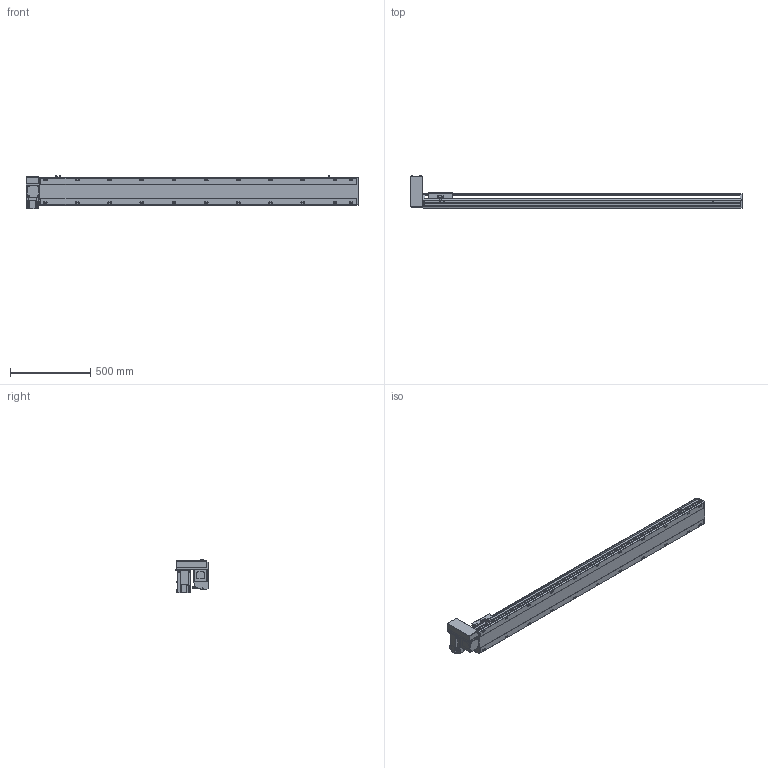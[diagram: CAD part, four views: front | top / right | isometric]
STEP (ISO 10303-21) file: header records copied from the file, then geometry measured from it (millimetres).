
FILE_DESCRIPTION(/* description */ ('STEP AP214'),/* implementation_level */ '2;1');
FILE_NAME(/* name */ 'PBS170-P40-S1700-RU-T75-C1-N(0)',/* time_stamp */ '2022-06-08T07:59:29+02:00',/* author */ ('License CC BY-ND 4.0'),/* organization */ ('CADENAS'),/* preprocessor_version */ 'ST-DEVELOPER v18.102',/* originating_system */ 'PARTsolutions',/* authorisation */ ' ');
FILE_SCHEMA (('AUTOMOTIVE_DESIGN {1 0 10303 214 3 1 1}'));
Length unit declared in the file: millimetre
Products named in the file (7): PBS170-P40-S1700-RU-T75-C1-N(0); PBS170_sensor; PBS170_plant; PBS170_sliser; T75-p1; PBS170T-RU_motors; PBS170-S1700()_body
Assembly tree (8 placements, depth 2):
  PBS170-P40-S1700-RU-T75-C1-N(0)
    PBS170_sensor  x3
    PBS170_plant
    PBS170_sliser
    T75-p1
    PBS170T-RU_motors
    PBS170-S1700()_body
Bounding box: 2063 x 206 x 205.3 mm (x, y, z)
Volume: 15977052.6 mm3; surface area: 2042360.4 mm2
Topology: 8 solids, 8 shells, 1130 faces, 2995 edges, 1952 vertices
Faces by surface type: plane 705, cylinder 363, cone 52, sphere 8, torus 2
Full cylindrical faces by diameter (mm): 3.242 x4, 4 x2, 4.4 x4, 4.5 x6, 4.917 x4, 6 x9, 6.647 x30, 7 x2, 7.5 x4, 8 x8, 8.5 x22, 10 x4, 10.5 x22, 11 x2, 30 x2, 40 x1, 70 x1
Entity records: 32492 total; most frequent: CARTESIAN_POINT 6049, DIRECTION 5510, ORIENTED_EDGE 5208, EDGE_CURVE 2604, AXIS2_PLACEMENT_3D 1927, VERTEX_POINT 1802, LINE 1656, VECTOR 1656
